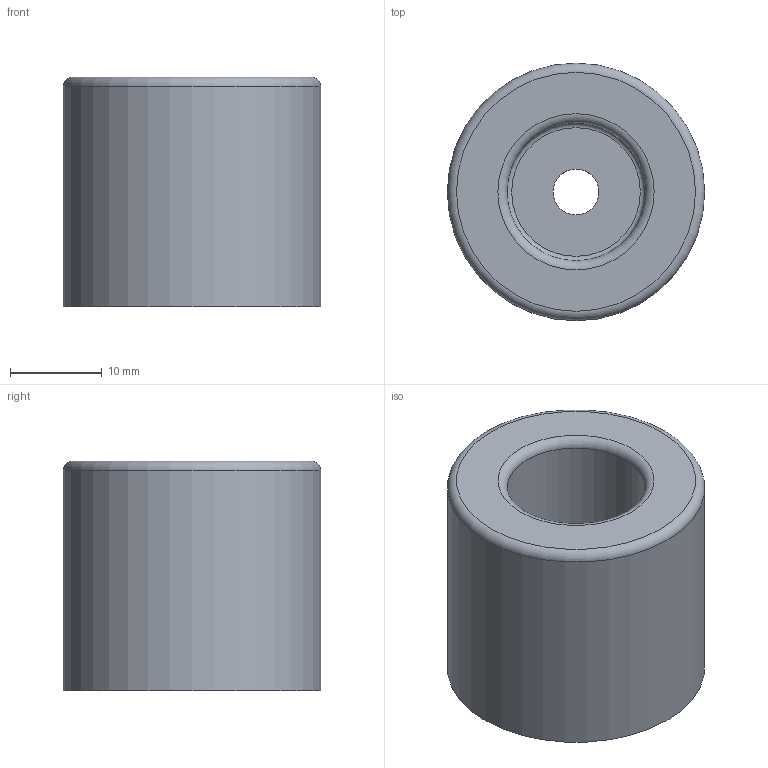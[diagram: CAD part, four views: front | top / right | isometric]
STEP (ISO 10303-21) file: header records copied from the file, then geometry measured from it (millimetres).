
FILE_DESCRIPTION(/* description */ ('STEP AP242 Edition 2','CAx-IF Rec.Pracs.---Representation and Presentation of Product Manufacturing Information (PMI)---4.0---2014-10-13','CAx-IF Rec.Pracs.---3D Tessellated Geometry---0.4---2014-09-14','2;1','CAx-IF Rec.Pracs.---User Defined Attributes---1.5---2016-08-15'),/* implementation_level */ '2;1');
FILE_NAME(/* name */ '693e1faa3100820afeb07654',/* time_stamp */ '2025-12-14T02:23:39Z',/* author */ (''),/* organization */ (''),/* preprocessor_version */ 'ST-DEVELOPER v20',/* originating_system */ 'ONSHAPE BY PTC INC, 1.208',/* authorisation */ ' ');
FILE_SCHEMA (('AP242_MANAGED_MODEL_BASED_3D_ENGINEERING_MIM_LF { 1 0 10303 442 3 1 4 }'));
Length unit declared in the file: metre
Products named in the file (1): Foot
Bounding box: 28 x 28 x 25 mm (x, y, z)
Volume: 12834.4 mm3; surface area: 4124.3 mm2
Topology: 1 solids, 1 shells, 9 faces, 15 edges, 9 vertices
Faces by surface type: cylinder 3, plane 3, torus 3
Full cylindrical faces by diameter (mm): 5 x1, 15 x1, 28 x1
Entity records: 210 total; most frequent: DIRECTION 38, CARTESIAN_POINT 28, AXIS2_PLACEMENT_3D 19, ORIENTED_EDGE 18, EDGE_LOOP 18, FACE_BOUND 18, EDGE_CURVE 9, VERTEX_POINT 9
